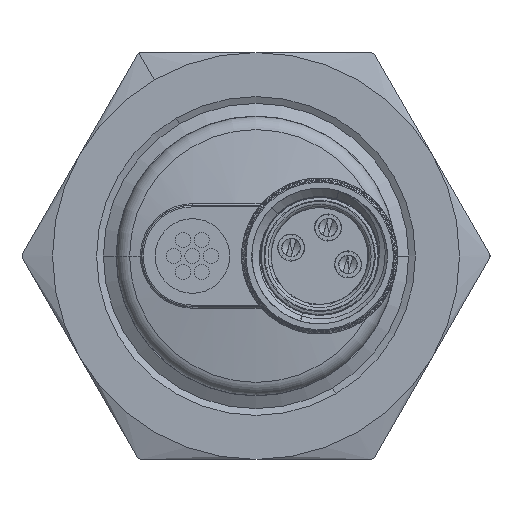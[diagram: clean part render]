
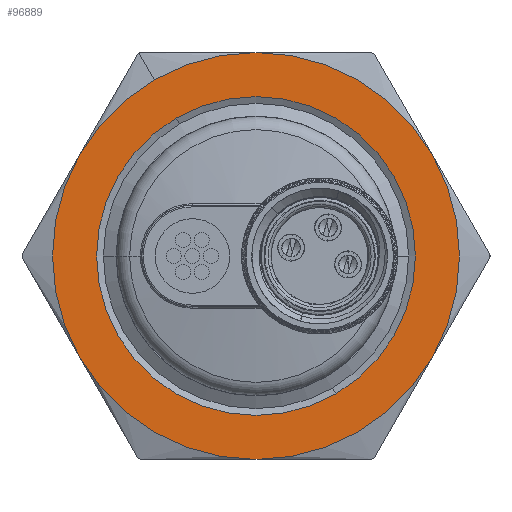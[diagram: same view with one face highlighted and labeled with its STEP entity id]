
A CAD part, left-side view. The second image highlights one B-rep face of the part: STEP entity #96889.
In plain terms, the highlighted planar face has unit normal (-1, 0, 0) as drawn and (0, 0, -1) by its records, which use the part's own axes.
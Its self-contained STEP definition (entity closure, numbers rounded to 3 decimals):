
#2939 = CARTESIAN_POINT ( 'NONE',  ( 0., 0., 0. ) ) ;
#5012 = AXIS2_PLACEMENT_3D ( 'NONE', #24593, #126372, #23121 ) ;
#5687 = CARTESIAN_POINT ( 'NONE',  ( 0., 0., 0. ) ) ;
#6815 = CARTESIAN_POINT ( 'NONE',  ( -9.4, 0., 0. ) ) ;
#6935 = CARTESIAN_POINT ( 'NONE',  ( 0., -12., 0. ) ) ;
#10063 = AXIS2_PLACEMENT_3D ( 'NONE', #18786, #19554, #73739 ) ;
#11499 = DIRECTION ( 'NONE',  ( 0., 0., 1. ) ) ;
#16970 = DIRECTION ( 'NONE',  ( -1., 0., 0. ) ) ;
#17850 = AXIS2_PLACEMENT_3D ( 'NONE', #5687, #108750, #96822 ) ;
#18786 = CARTESIAN_POINT ( 'NONE',  ( 0., 0., 0. ) ) ;
#19431 = CARTESIAN_POINT ( 'NONE',  ( 0., 12., 0. ) ) ;
#19554 = DIRECTION ( 'NONE',  ( 0., 0., 1. ) ) ;
#21549 = EDGE_CURVE ( 'NONE', #26180, #98197, #134332, .T. ) ;
#22011 = CIRCLE ( 'NONE', #102501, 12. ) ;
#23121 = DIRECTION ( 'NONE',  ( -1., 0., 0. ) ) ;
#24593 = CARTESIAN_POINT ( 'NONE',  ( 0., 0., 0. ) ) ;
#25554 = DIRECTION ( 'NONE',  ( 0., 0., -1. ) ) ;
#26180 = VERTEX_POINT ( 'NONE', #6935 ) ;
#27387 = AXIS2_PLACEMENT_3D ( 'NONE', #32332, #145251, #52407 ) ;
#31275 = ORIENTED_EDGE ( 'NONE', *, *, #95403, .F. ) ;
#32332 = CARTESIAN_POINT ( 'NONE',  ( 0., 0., 0. ) ) ;
#34731 = DIRECTION ( 'NONE',  ( 0., 0., -1. ) ) ;
#36077 = CARTESIAN_POINT ( 'NONE',  ( -10.392, -6., 0. ) ) ;
#42185 = CIRCLE ( 'NONE', #49307, 12. ) ;
#43411 = DIRECTION ( 'NONE',  ( 0., 0., -1. ) ) ;
#44826 = CARTESIAN_POINT ( 'NONE',  ( 0., 0., 0. ) ) ;
#46321 = ORIENTED_EDGE ( 'NONE', *, *, #105608, .F. ) ;
#46463 = VERTEX_POINT ( 'NONE', #99246 ) ;
#47039 = CIRCLE ( 'NONE', #134800, 9.4 ) ;
#48622 = CIRCLE ( 'NONE', #17850, 12. ) ;
#49307 = AXIS2_PLACEMENT_3D ( 'NONE', #2939, #96302, #16970 ) ;
#52407 = DIRECTION ( 'NONE',  ( -1., 0., 0. ) ) ;
#54049 = EDGE_LOOP ( 'NONE', ( #31275, #46321 ) ) ;
#55619 = EDGE_CURVE ( 'NONE', #98197, #132708, #48622, .T. ) ;
#56412 = AXIS2_PLACEMENT_3D ( 'NONE', #73736, #25554, #107163 ) ;
#60594 = VERTEX_POINT ( 'NONE', #6815 ) ;
#61806 = PLANE ( 'NONE',  #56412 ) ;
#64243 = EDGE_CURVE ( 'NONE', #136203, #26180, #42185, .T. ) ;
#67083 = CARTESIAN_POINT ( 'NONE',  ( 0., 0., 0. ) ) ;
#70510 = ORIENTED_EDGE ( 'NONE', *, *, #55619, .F. ) ;
#70514 = CARTESIAN_POINT ( 'NONE',  ( -12., 0., 0. ) ) ;
#72368 = CIRCLE ( 'NONE', #27387, 12. ) ;
#73350 = EDGE_CURVE ( 'NONE', #142384, #136203, #85565, .T. ) ;
#73736 = CARTESIAN_POINT ( 'NONE',  ( 0., 0., 0. ) ) ;
#73739 = DIRECTION ( 'NONE',  ( -1., 0., 0. ) ) ;
#74512 = EDGE_CURVE ( 'NONE', #133895, #46463, #22011, .T. ) ;
#75532 = ORIENTED_EDGE ( 'NONE', *, *, #129560, .F. ) ;
#78284 = EDGE_CURVE ( 'NONE', #46463, #142384, #72368, .T. ) ;
#79250 = DIRECTION ( 'NONE',  ( -1., 0., 0. ) ) ;
#83374 = FACE_BOUND ( 'NONE', #54049, .T. ) ;
#85565 = CIRCLE ( 'NONE', #5012, 12. ) ;
#86703 = ORIENTED_EDGE ( 'NONE', *, *, #74512, .F. ) ;
#87119 = CIRCLE ( 'NONE', #136739, 9.4 ) ;
#87859 = DIRECTION ( 'NONE',  ( -1., 0., 0. ) ) ;
#88616 = DIRECTION ( 'NONE',  ( -1., 0., 0. ) ) ;
#90051 = DIRECTION ( 'NONE',  ( -1., 0., 0. ) ) ;
#91133 = CARTESIAN_POINT ( 'NONE',  ( 0., 0., 0. ) ) ;
#95403 = EDGE_CURVE ( 'NONE', #60594, #122882, #87119, .T. ) ;
#96302 = DIRECTION ( 'NONE',  ( 0., 0., 1. ) ) ;
#96822 = DIRECTION ( 'NONE',  ( -1., 0., 0. ) ) ;
#96889 = ADVANCED_FACE ( 'NONE', ( #83374, #139923 ), #61806, .T. ) ;
#97621 = ORIENTED_EDGE ( 'NONE', *, *, #78284, .F. ) ;
#98197 = VERTEX_POINT ( 'NONE', #117703 ) ;
#98774 = ORIENTED_EDGE ( 'NONE', *, *, #21549, .F. ) ;
#99246 = CARTESIAN_POINT ( 'NONE',  ( -10.392, 6., 0. ) ) ;
#99356 = ORIENTED_EDGE ( 'NONE', *, *, #64243, .F. ) ;
#102501 = AXIS2_PLACEMENT_3D ( 'NONE', #44826, #120615, #90051 ) ;
#105608 = EDGE_CURVE ( 'NONE', #122882, #60594, #47039, .T. ) ;
#107163 = DIRECTION ( 'NONE',  ( 0., -1., 0. ) ) ;
#108072 = CARTESIAN_POINT ( 'NONE',  ( 9.4, 0., 0. ) ) ;
#108160 = AXIS2_PLACEMENT_3D ( 'NONE', #144433, #11499, #87859 ) ;
#108750 = DIRECTION ( 'NONE',  ( 0., 0., 1. ) ) ;
#115173 = EDGE_LOOP ( 'NONE', ( #70510, #98774, #99356, #122827, #97621, #86703, #75532 ) ) ;
#117703 = CARTESIAN_POINT ( 'NONE',  ( 10.392, -6., 0. ) ) ;
#120615 = DIRECTION ( 'NONE',  ( 0., 0., 1. ) ) ;
#122827 = ORIENTED_EDGE ( 'NONE', *, *, #73350, .F. ) ;
#122882 = VERTEX_POINT ( 'NONE', #108072 ) ;
#126372 = DIRECTION ( 'NONE',  ( 0., 0., 1. ) ) ;
#129444 = CARTESIAN_POINT ( 'NONE',  ( 10.392, 6., 0. ) ) ;
#129560 = EDGE_CURVE ( 'NONE', #132708, #133895, #130961, .T. ) ;
#130961 = CIRCLE ( 'NONE', #10063, 12. ) ;
#132708 = VERTEX_POINT ( 'NONE', #129444 ) ;
#133895 = VERTEX_POINT ( 'NONE', #19431 ) ;
#134332 = CIRCLE ( 'NONE', #108160, 12. ) ;
#134800 = AXIS2_PLACEMENT_3D ( 'NONE', #67083, #43411, #88616 ) ;
#136203 = VERTEX_POINT ( 'NONE', #36077 ) ;
#136739 = AXIS2_PLACEMENT_3D ( 'NONE', #91133, #34731, #79250 ) ;
#139923 = FACE_OUTER_BOUND ( 'NONE', #115173, .T. ) ;
#142384 = VERTEX_POINT ( 'NONE', #70514 ) ;
#144433 = CARTESIAN_POINT ( 'NONE',  ( 0., 0., 0. ) ) ;
#145251 = DIRECTION ( 'NONE',  ( 0., 0., 1. ) ) ;
